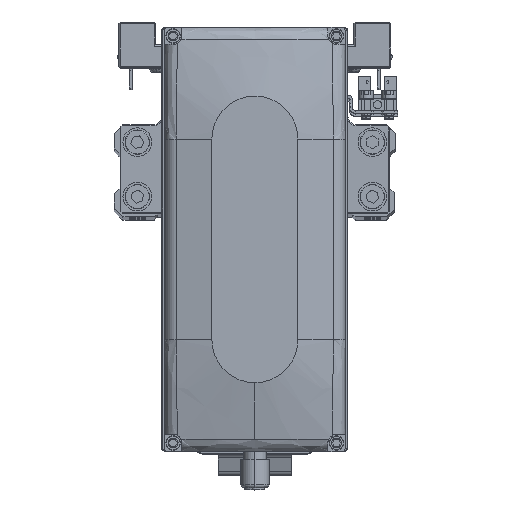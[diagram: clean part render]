
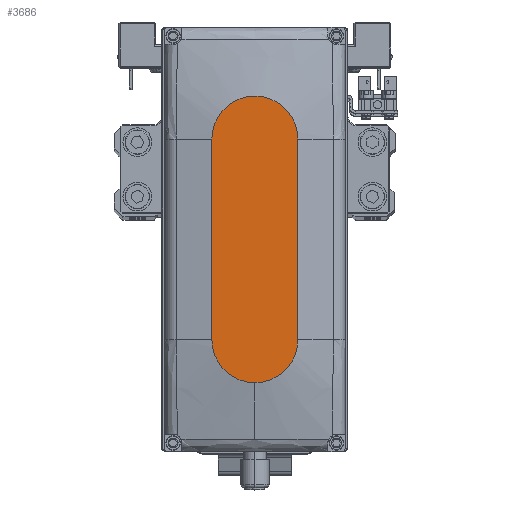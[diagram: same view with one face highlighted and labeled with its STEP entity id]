
A CAD part, top view. The second image highlights one B-rep face of the part: STEP entity #3686.
In plain terms, the highlighted planar face has unit normal (0, 0, 1).
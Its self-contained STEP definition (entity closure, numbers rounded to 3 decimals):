
#1623 = CIRCLE ( 'NONE', #7059, 15. ) ;
#3686 = ADVANCED_FACE ( 'NONE', ( #24997 ), #37989, .T. ) ;
#3916 = EDGE_CURVE ( 'NONE', #9902, #20127, #26882, .T. ) ;
#6363 = DIRECTION ( 'NONE',  ( 1., 0., 0. ) ) ;
#6513 = VERTEX_POINT ( 'NONE', #32594 ) ;
#7059 = AXIS2_PLACEMENT_3D ( 'NONE', #26251, #39244, #10052 ) ;
#7791 = AXIS2_PLACEMENT_3D ( 'NONE', #22570, #35569, #6363 ) ;
#8048 = ORIENTED_EDGE ( 'NONE', *, *, #22335, .T. ) ;
#8791 = CARTESIAN_POINT ( 'NONE',  ( 0., 0., 35. ) ) ;
#9377 = VECTOR ( 'NONE', #10671, 1000. ) ;
#9828 = CARTESIAN_POINT ( 'NONE',  ( 35., -15., 35. ) ) ;
#9902 = VERTEX_POINT ( 'NONE', #41529 ) ;
#10052 = DIRECTION ( 'NONE',  ( 1., 0., 0. ) ) ;
#10185 = AXIS2_PLACEMENT_3D ( 'NONE', #11417, #24428, #37427 ) ;
#10671 = DIRECTION ( 'NONE',  ( 1., 0., 0. ) ) ;
#11417 = CARTESIAN_POINT ( 'NONE',  ( -35., 0., 35. ) ) ;
#12099 = EDGE_CURVE ( 'NONE', #20127, #42129, #26162, .T. ) ;
#12779 = ORIENTED_EDGE ( 'NONE', *, *, #33399, .T. ) ;
#14296 = LINE ( 'NONE', #27303, #34558 ) ;
#14328 = ORIENTED_EDGE ( 'NONE', *, *, #15027, .T. ) ;
#15027 = EDGE_CURVE ( 'NONE', #40022, #6513, #14296, .T. ) ;
#15635 = EDGE_LOOP ( 'NONE', ( #14328, #12779, #30481, #18189, #8048 ) ) ;
#18189 = ORIENTED_EDGE ( 'NONE', *, *, #12099, .T. ) ;
#20127 = VERTEX_POINT ( 'NONE', #9828 ) ;
#21800 = DIRECTION ( 'NONE',  ( 0., 0., 1. ) ) ;
#22335 = EDGE_CURVE ( 'NONE', #42129, #40022, #1623, .T. ) ;
#22570 = CARTESIAN_POINT ( 'NONE',  ( 35., 0., 35. ) ) ;
#24428 = DIRECTION ( 'NONE',  ( 0., 0., 1. ) ) ;
#24997 = FACE_OUTER_BOUND ( 'NONE', #15635, .T. ) ;
#26162 = CIRCLE ( 'NONE', #7791, 15. ) ;
#26251 = CARTESIAN_POINT ( 'NONE',  ( 35., 0., 35. ) ) ;
#26882 = LINE ( 'NONE', #39865, #9377 ) ;
#27303 = CARTESIAN_POINT ( 'NONE',  ( -35., 15., 35. ) ) ;
#28260 = CARTESIAN_POINT ( 'NONE',  ( 50., 0., 35. ) ) ;
#28575 = CIRCLE ( 'NONE', #10185, 15. ) ;
#30481 = ORIENTED_EDGE ( 'NONE', *, *, #3916, .T. ) ;
#31703 = AXIS2_PLACEMENT_3D ( 'NONE', #8791, #21800, #34800 ) ;
#32090 = CARTESIAN_POINT ( 'NONE',  ( 35., 15., 35. ) ) ;
#32594 = CARTESIAN_POINT ( 'NONE',  ( -35., 15., 35. ) ) ;
#33399 = EDGE_CURVE ( 'NONE', #6513, #9902, #28575, .T. ) ;
#34558 = VECTOR ( 'NONE', #40303, 1000. ) ;
#34800 = DIRECTION ( 'NONE',  ( 1., 0., 0. ) ) ;
#35569 = DIRECTION ( 'NONE',  ( 0., 0., 1. ) ) ;
#37427 = DIRECTION ( 'NONE',  ( 1., 0., 0. ) ) ;
#37989 = PLANE ( 'NONE',  #31703 ) ;
#39244 = DIRECTION ( 'NONE',  ( 0., 0., 1. ) ) ;
#39865 = CARTESIAN_POINT ( 'NONE',  ( -35., -15., 35. ) ) ;
#40022 = VERTEX_POINT ( 'NONE', #32090 ) ;
#40303 = DIRECTION ( 'NONE',  ( -1., 0., 0. ) ) ;
#41529 = CARTESIAN_POINT ( 'NONE',  ( -35., -15., 35. ) ) ;
#42129 = VERTEX_POINT ( 'NONE', #28260 ) ;
